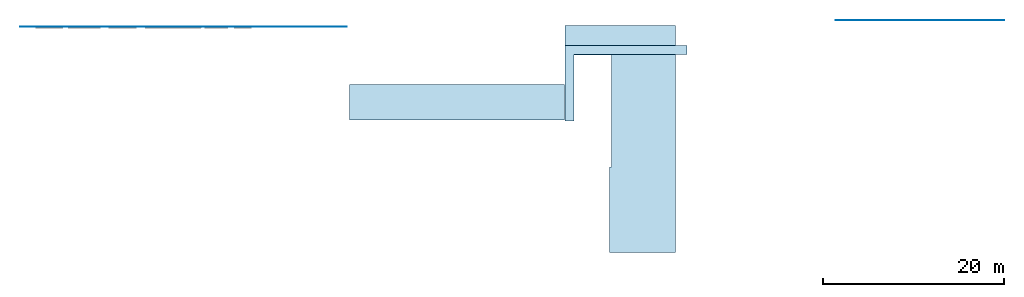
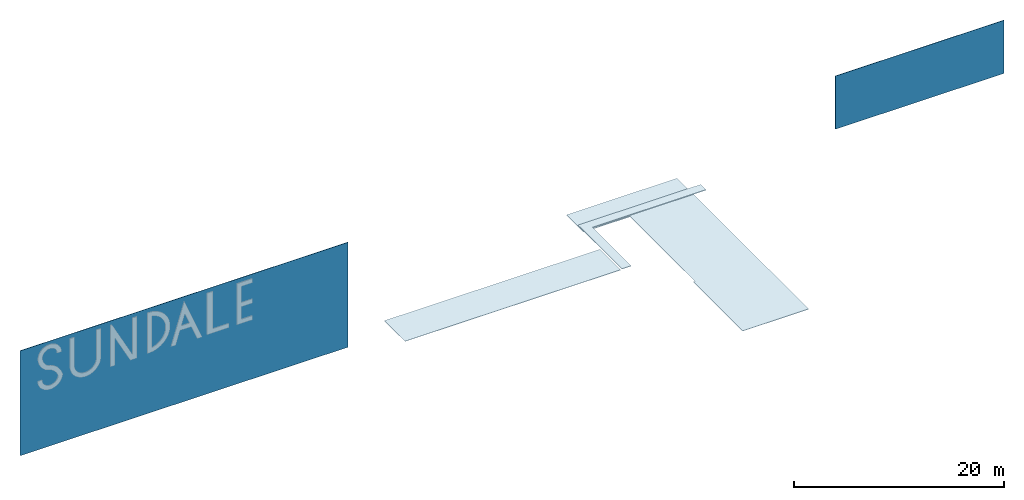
# One storey, part 1 of 2: 3 slabs, 2 walls.
"""IFC2X3 building model written with IfcOpenShell, lengths in millimetres."""

from ifc_helpers import new_model, entity, si_unit, converted_unit, derived_unit, direction, frame, frame_2d, origin, place, context, subcontext, project, spatial, polyline, rectangle, outline, extrude, clip, halfspace, material, layer, layer_set, layer_usage, type_object, element, save


model = new_model("IFC2X3")

# Units and contexts
model_context = context("Model", 3, precision=0.01, world=origin(), true_north=direction((4.05803320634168e-15, -1.0)))
body_context = subcontext(model_context, "Body", "Model", "MODEL_VIEW")
ifc_project = project(units=[si_unit("LENGTHUNIT", "METRE", prefix="MILLI"), si_unit("AREAUNIT", "SQUARE_METRE"), si_unit("VOLUMEUNIT", "CUBIC_METRE"), converted_unit("PLANEANGLEUNIT", "DEGREE", entity("IfcRatioMeasure", 0.0174532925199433), si_unit("PLANEANGLEUNIT", "RADIAN"), dimensions=[0, 0, 0, 0, 0, 0, 0]), si_unit("MASSUNIT", "GRAM", prefix="KILO"), derived_unit("MASSDENSITYUNIT", [(si_unit("MASSUNIT", "GRAM", prefix="KILO"), 1), (si_unit("LENGTHUNIT", "METRE"), -3)]), si_unit("TIMEUNIT", "SECOND"), si_unit("FREQUENCYUNIT", "HERTZ"), si_unit("THERMODYNAMICTEMPERATUREUNIT", "DEGREE_CELSIUS"), derived_unit("THERMALTRANSMITTANCEUNIT", [(si_unit("MASSUNIT", "GRAM", prefix="KILO"), 1), (si_unit("THERMODYNAMICTEMPERATUREUNIT", "KELVIN"), -1), (si_unit("TIMEUNIT", "SECOND"), -3)]), derived_unit("VOLUMETRICFLOWRATEUNIT", [(si_unit("LENGTHUNIT", "METRE"), 3), (si_unit("TIMEUNIT", "SECOND"), -1)]), si_unit("ELECTRICCURRENTUNIT", "AMPERE"), si_unit("ELECTRICVOLTAGEUNIT", "VOLT"), si_unit("POWERUNIT", "WATT"), si_unit("FORCEUNIT", "NEWTON", prefix="KILO"), si_unit("ILLUMINANCEUNIT", "LUX"), si_unit("LUMINOUSFLUXUNIT", "LUMEN"), si_unit("LUMINOUSINTENSITYUNIT", "CANDELA"), derived_unit("USERDEFINED", [(si_unit("MASSUNIT", "GRAM", prefix="KILO"), -1), (si_unit("LENGTHUNIT", "METRE"), -2), (si_unit("TIMEUNIT", "SECOND"), 3), (si_unit("LUMINOUSFLUXUNIT", "LUMEN"), 1)]), derived_unit("LINEARVELOCITYUNIT", [(si_unit("LENGTHUNIT", "METRE"), 1), (si_unit("TIMEUNIT", "SECOND"), -1)]), si_unit("PRESSUREUNIT", "PASCAL"), derived_unit("USERDEFINED", [(si_unit("LENGTHUNIT", "METRE"), -2), (si_unit("MASSUNIT", "GRAM", prefix="KILO"), 1), (si_unit("TIMEUNIT", "SECOND"), -2)])], contexts=[model_context])

# Site, building, storey
site_placement = place(None, frame((927466.849349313, 583801.882853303, 0.0), z_axis=(0.0, 0.0, 1.0), x_axis=(-1.0, 0.0, 0.0)))
site = spatial("IfcSite", under=ifc_project, at=site_placement, Name="Surface", CompositionType="ELEMENT")
building_placement = place(site_placement, origin())
building = spatial("IfcBuilding", under=site, at=building_placement, CompositionType="ELEMENT")
storey_placement = place(building_placement, frame((0.0, 0.0, 50170.0)))
storey = spatial("IfcBuildingStorey", under=building, at=storey_placement, Name="Ceiling 6000", CompositionType="ELEMENT", Elevation=50170.0)

# Slabs
ifc_material_1 = material(Name="Gypsum Wall Board")
ifc_layer_1 = layer(ifc_material_1, 50.0)
ifc_layer_set_1 = layer_set([ifc_layer_1], Name="Floor:celing")
ifc_layer_usage_1 = layer_usage(ifc_layer_set_1, "AXIS3", "POSITIVE", 0.0)
slab_1_placement = place(storey_placement, frame((-117141.965083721, 11908.2777512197, 800.0)))
element("IfcSlab", 1, at=slab_1_placement, inside=storey, material=ifc_layer_usage_1, Name="Floor:celing", ObjectType="Floor:celing", PredefinedType="FLOOR", context=body_context, shape_type="SweptSolid", body=[
    extrude(outline(polyline([(10746.5935129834, 12560.0), (10746.5935129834, 3140.13742898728), (10946.5935129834, 3140.13742898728), (10946.5935129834, -9299.0), (5826.65884501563, -9299.0), (5826.6588450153, -12560.0), (18020.6866519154, -12560.0), (18020.6866519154, 12560.0), (10746.5935129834, 12560.0)])), frame((18020.6866519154, 12560.0, 50.0), z_axis=(0.0, 0.0, -1.0), x_axis=(-1.0, 0.0, 0.0)), (0.0, 0.0, 1.0), 49.9999999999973),
])
slab_2_placement = place(storey_placement, frame((-117141.965083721, 11908.2777512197, 800.0)))
element("IfcSlab", 2, at=slab_2_placement, inside=storey, material=ifc_layer_usage_1, Name="Floor:celing:2", ObjectType="Floor:celing", PredefinedType="FLOOR", context=body_context, shape_type="SweptSolid", body=[
    extrude(rectangle(XDim=23747.3454969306, YDim=3938.19257547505, at=frame_2d((-6147.01390345, -4029.90371226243), x_axis=(1.0, 0.0))), frame((18020.6866519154, 12560.0, 50.0), z_axis=(0.0, 0.0, -1.0), x_axis=(-1.0, 0.0, 0.0)), (0.0, 0.0, 1.0), 49.9999999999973),
])
ifc_material_2 = material(Name="Copper")
ifc_layer_2 = layer(ifc_material_2, 70.0)
ifc_layer_set_2 = layer_set([ifc_layer_2], Name="Floor:catwalk")
ifc_layer_usage_2 = layer_usage(ifc_layer_set_2, "AXIS3", "POSITIVE", 0.0)
slab_3_placement = place(storey_placement, origin())
element("IfcSlab", 3, at=slab_3_placement, inside=storey, material=ifc_layer_usage_2, Name="Floor:catwalk", ObjectType="Floor:catwalk", PredefinedType="FLOOR", context=body_context, shape_type="SweptSolid", body=[
    extrude(outline(polyline([(-3129.3975251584, -8666.66666666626), (-2129.3975251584, -8666.66666666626), (-2129.3975251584, 3833.33333333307), (5258.79505031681, 3833.33333333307), (5258.79505031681, 4833.33333333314), (-3129.3975251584, 4833.33333333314), (-3129.3975251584, -8666.66666666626)])), frame((-109781.270610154, 17248.6752763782, 1000.0), z_axis=(0.0, 0.0, -1.0), x_axis=(0.0, 1.0, 0.0)), (0.0, 0.0, 1.0), 70.0000000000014),
])

# Walls
ifc_material_3 = material(Name="Cladding(2)")
ifc_layer_3 = layer(ifc_material_3, 38.0)
ifc_layer_set_3 = layer_set([ifc_layer_3], Name="Basic Wall:Cladding 3")
ifc_layer_usage_3 = layer_usage(ifc_layer_set_3, "AXIS2", "POSITIVE", -19.0)
wall_type = type_object("IfcWallType", Name="Basic Wall:Cladding 3", PredefinedType="NOTDEFINED")
wall_1_placement = place(storey_placement, frame((-80762.59177989, 12067.2777512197, -6000.0)))
element("IfcWallStandardCase", 4, at=wall_1_placement, inside=storey, type_object=wall_type, material=ifc_layer_usage_3, Name="Basic Wall:Cladding 3", ObjectType="Basic Wall:Cladding 3", context=body_context, shape_type="SweptSolid", body=[
    extrude(rectangle(XDim=36125.5494500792, YDim=38.0, at=frame_2d((18062.7747250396, -1.61648472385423e-13), x_axis=(-1.0, 0.0))), origin(), (0.0, 0.0, 1.0), 12229.8081197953),
])
ifc_layer_usage_4 = layer_usage(ifc_layer_set_3, "AXIS2", "NEGATIVE", 19.0)
wall_2_placement = place(storey_placement, frame((-153488.690247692, 11339.2777512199, 0.0)))
element("IfcWallStandardCase", 5, at=wall_2_placement, inside=storey, type_object=wall_type, material=ifc_layer_usage_4, Name="Basic Wall:Cladding 3", ObjectType="Basic Wall:Cladding 3", context=body_context, shape_type="Clipping", body=[
    clip(extrude(rectangle(XDim=18588.0984678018, YDim=38.0, at=frame_2d((9294.04923390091, -5.95079541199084e-13), x_axis=(-1.0, 0.0))), origin(), (0.0, 0.0, 1.0), 6203.17009517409), halfspace(frame((0.0, -19.0, 6203.17009517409), z_axis=(0.0, 0.0, 1.0), x_axis=(0.0, 1.0, 0.0)), False)),
])

save(model, "model.ifc")
